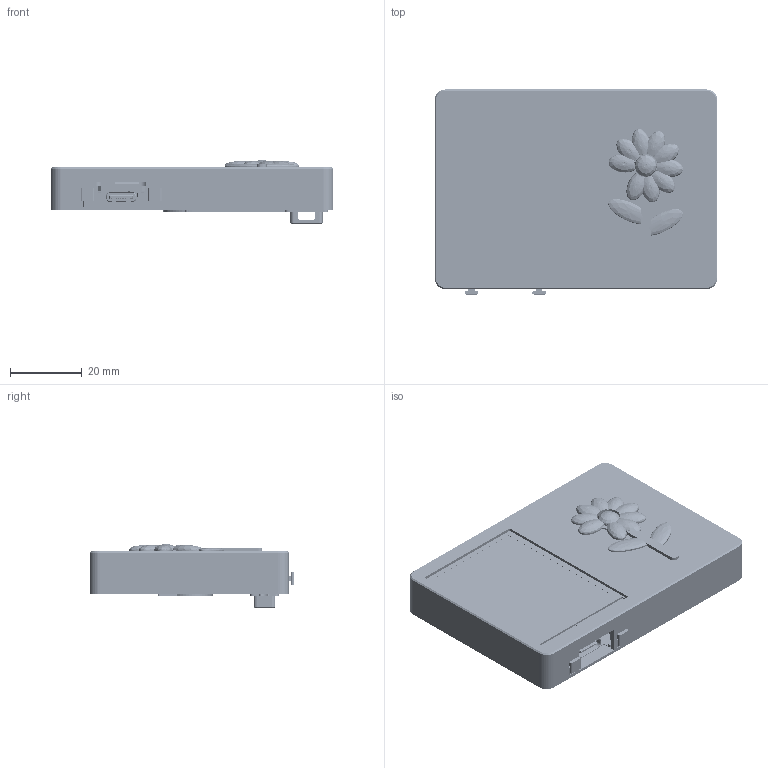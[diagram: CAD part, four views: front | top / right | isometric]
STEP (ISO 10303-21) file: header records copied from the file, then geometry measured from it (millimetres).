
FILE_DESCRIPTION(('Open CASCADE Model'),'2;1');
FILE_NAME('Open CASCADE Shape Model','2026-11-21T21:45:03',('Author'),( 'Open CASCADE'),'Open CASCADE STEP processor 7.9','Open CASCADE 7.9' ,'Unknown');
FILE_SCHEMA(('AUTOMOTIVE_DESIGN { 1 0 10303 214 1 1 1 1 }'));
Length unit declared in the file: millimetre
Products named in the file (11): NianNian_V11_simple_two_bay; A_main_two_bay; C_rear_cover; E_battery_spacer; K_BOOT_cap; K_RST_cap; hardware; battery; D_daisy_petals; D2_daisy_center; D3_stem_leaves
Assembly tree (10 placements, depth 2):
  NianNian_V11_simple_two_bay
    A_main_two_bay
    C_rear_cover
    E_battery_spacer
    K_BOOT_cap
    K_RST_cap
    hardware
    battery
    D_daisy_petals
    D2_daisy_center
    D3_stem_leaves
Bounding box: 79 x 57.3 x 17.8 mm (x, y, z)
Volume: 36147.1 mm3; surface area: 47879.1 mm2
Topology: 333 solids, 345 shells, 18042 faces, 47644 edges, 30969 vertices
Faces by surface type: plane 11934, extrusion 3289, cylinder 2333, sphere 331, cone 65, bspline 46, torus 44
Full cylindrical faces by diameter (mm): 1.1 x2, 1.2 x2, 1.4 x2, 1.9 x2, 3 x5, 6.57 x2
Entity records: 1403202 total; most frequent: CARTESIAN_POINT 480983, DIRECTION 155570, VECTOR 114663, LINE 111374, ORIENTED_EDGE 94614, PCURVE 94614, DEFINITIONAL_REPRESENTATION 94614, EDGE_CURVE 47307
